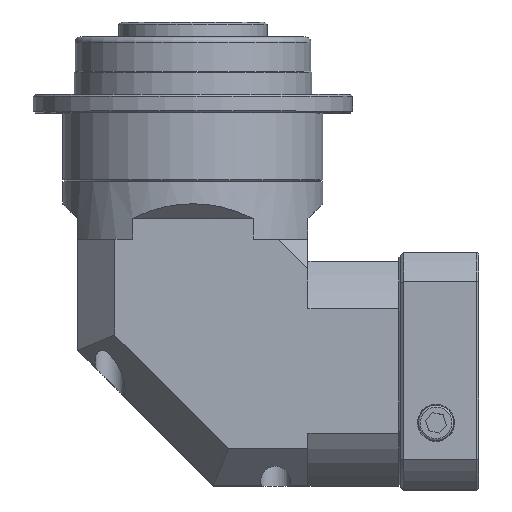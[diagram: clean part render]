
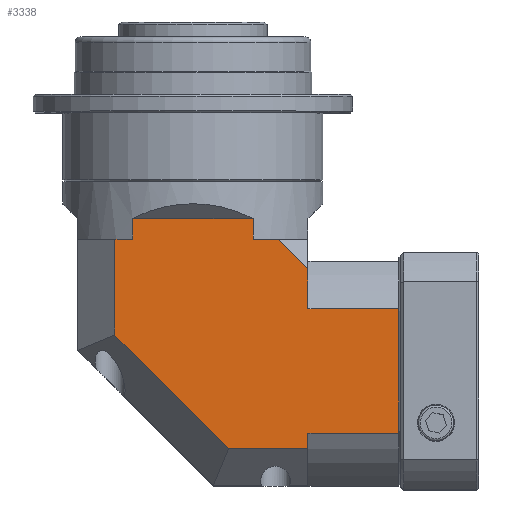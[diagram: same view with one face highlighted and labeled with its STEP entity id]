
A CAD part, top view. The second image highlights one B-rep face of the part: STEP entity #3338.
In plain terms, the highlighted planar face has unit normal (0, 0, 1).
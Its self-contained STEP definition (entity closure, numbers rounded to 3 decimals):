
#1946=CARTESIAN_POINT('',(-16.248,35.5,31.0));
#1947=VERTEX_POINT('',#1946);
#1955=CARTESIAN_POINT('',(-16.248,41.,31.));
#1956=VERTEX_POINT('',#1955);
#1957=CARTESIAN_POINT('',(-16.248,35.5,31.0));
#1958=DIRECTION('',(0.0,1.0,0.0));
#1959=VECTOR('',#1958,5.5);
#1960=LINE('',#1957,#1959);
#1961=EDGE_CURVE('',#1947,#1956,#1960,.T.);
#1963=CARTESIAN_POINT('',(16.248,41.,31.));
#1964=VERTEX_POINT('',#1963);
#1972=CARTESIAN_POINT('',(16.248,35.5,31.));
#1973=VERTEX_POINT('',#1972);
#1974=CARTESIAN_POINT('',(16.248,41.,31.));
#1975=DIRECTION('',(0.0,-1.0,0.0));
#1976=VECTOR('',#1975,5.5);
#1977=LINE('',#1974,#1976);
#1978=EDGE_CURVE('',#1964,#1973,#1977,.T.);
#3186=CARTESIAN_POINT('',(31.,27.5,31.));
#3187=VERTEX_POINT('',#3186);
#3194=CARTESIAN_POINT('',(31.,16.78,31.0));
#3195=VERTEX_POINT('',#3194);
#3196=CARTESIAN_POINT('',(31.,27.5,31.));
#3197=DIRECTION('',(0.0,-1.0,0.0));
#3198=VECTOR('',#3197,10.72);
#3199=LINE('',#3196,#3198);
#3200=EDGE_CURVE('',#3187,#3195,#3199,.T.);
#3234=CARTESIAN_POINT('',(23.,35.5,31.));
#3235=VERTEX_POINT('',#3234);
#3236=CARTESIAN_POINT('',(16.248,35.5,31.));
#3237=DIRECTION('',(1.0,0.0,0.0));
#3238=VECTOR('',#3237,6.752);
#3239=LINE('',#3236,#3238);
#3240=EDGE_CURVE('',#1973,#3235,#3239,.T.);
#3253=CARTESIAN_POINT('',(55.5,-31.,31.));
#3254=DIRECTION('',(0.0,0.0,-1.0));
#3255=DIRECTION('',(-1.0,0.0,0.0));
#3256=AXIS2_PLACEMENT_3D('',#3253,#3254,#3255);
#3257=PLANE('',#3256);
#3258=CARTESIAN_POINT('',(23.,35.5,31.));
#3259=DIRECTION('',(0.707,-0.707,0.));
#3260=VECTOR('',#3259,11.314);
#3261=LINE('',#3258,#3260);
#3262=EDGE_CURVE('',#3235,#3187,#3261,.T.);
#3263=ORIENTED_EDGE('',*,*,#3262,.F.);
#3264=ORIENTED_EDGE('',*,*,#3240,.F.);
#3265=ORIENTED_EDGE('',*,*,#1978,.F.);
#3266=CARTESIAN_POINT('',(-16.248,41.,31.));
#3267=DIRECTION('',(1.0,0.0,0.0));
#3268=VECTOR('',#3267,32.496);
#3269=LINE('',#3266,#3268);
#3270=EDGE_CURVE('',#1956,#1964,#3269,.T.);
#3271=ORIENTED_EDGE('',*,*,#3270,.F.);
#3272=ORIENTED_EDGE('',*,*,#1961,.F.);
#3273=CARTESIAN_POINT('',(-21.,35.5,31.));
#3274=VERTEX_POINT('',#3273);
#3275=CARTESIAN_POINT('',(-21.,35.5,31.));
#3276=DIRECTION('',(1.0,0.0,0.0));
#3277=VECTOR('',#3276,4.752);
#3278=LINE('',#3275,#3277);
#3279=EDGE_CURVE('',#3274,#1947,#3278,.T.);
#3280=ORIENTED_EDGE('',*,*,#3279,.F.);
#3281=CARTESIAN_POINT('',(-21.,9.642,31.0));
#3282=VERTEX_POINT('',#3281);
#3283=CARTESIAN_POINT('',(-21.,35.5,31.0));
#3284=DIRECTION('',(0.0,-1.0,0.0));
#3285=VECTOR('',#3284,25.858);
#3286=LINE('',#3283,#3285);
#3287=EDGE_CURVE('',#3274,#3282,#3286,.T.);
#3288=ORIENTED_EDGE('',*,*,#3287,.T.);
#3289=CARTESIAN_POINT('',(9.642,-21.,31.));
#3290=VERTEX_POINT('',#3289);
#3291=CARTESIAN_POINT('',(-21.,9.642,31.0));
#3292=DIRECTION('',(0.707,-0.707,0.));
#3293=VECTOR('',#3292,43.335);
#3294=LINE('',#3291,#3293);
#3295=EDGE_CURVE('',#3282,#3290,#3294,.T.);
#3296=ORIENTED_EDGE('',*,*,#3295,.T.);
#3297=CARTESIAN_POINT('',(31.,-21.,31.));
#3298=VERTEX_POINT('',#3297);
#3299=CARTESIAN_POINT('',(9.642,-21.,31.));
#3300=DIRECTION('',(1.0,0.0,0.0));
#3301=VECTOR('',#3300,21.358);
#3302=LINE('',#3299,#3301);
#3303=EDGE_CURVE('',#3290,#3298,#3302,.T.);
#3304=ORIENTED_EDGE('',*,*,#3303,.T.);
#3305=CARTESIAN_POINT('',(31.,-16.78,31.0));
#3306=VERTEX_POINT('',#3305);
#3307=CARTESIAN_POINT('',(31.,-16.78,31.));
#3308=DIRECTION('',(0.0,-1.0,0.0));
#3309=VECTOR('',#3308,4.22);
#3310=LINE('',#3307,#3309);
#3311=EDGE_CURVE('',#3306,#3298,#3310,.T.);
#3312=ORIENTED_EDGE('',*,*,#3311,.F.);
#3313=CARTESIAN_POINT('',(55.5,-16.78,31.0));
#3314=VERTEX_POINT('',#3313);
#3315=CARTESIAN_POINT('',(55.5,-16.78,31.0));
#3316=DIRECTION('',(-1.0,0.0,0.0));
#3317=VECTOR('',#3316,24.5);
#3318=LINE('',#3315,#3317);
#3319=EDGE_CURVE('',#3314,#3306,#3318,.T.);
#3320=ORIENTED_EDGE('',*,*,#3319,.F.);
#3321=CARTESIAN_POINT('',(55.5,16.78,31.0));
#3322=VERTEX_POINT('',#3321);
#3323=CARTESIAN_POINT('',(55.5,16.78,31.));
#3324=DIRECTION('',(0.0,-1.0,0.0));
#3325=VECTOR('',#3324,33.56);
#3326=LINE('',#3323,#3325);
#3327=EDGE_CURVE('',#3322,#3314,#3326,.T.);
#3328=ORIENTED_EDGE('',*,*,#3327,.F.);
#3329=CARTESIAN_POINT('',(31.,16.78,31.0));
#3330=DIRECTION('',(1.0,0.0,0.0));
#3331=VECTOR('',#3330,24.5);
#3332=LINE('',#3329,#3331);
#3333=EDGE_CURVE('',#3195,#3322,#3332,.T.);
#3334=ORIENTED_EDGE('',*,*,#3333,.F.);
#3335=ORIENTED_EDGE('',*,*,#3200,.F.);
#3336=EDGE_LOOP('',(#3263,#3264,#3265,#3271,#3272,#3280,#3288,#3296,#3304,#3312,#3320,#3328,#3334,#3335));
#3337=FACE_OUTER_BOUND('',#3336,.T.);
#3338=ADVANCED_FACE('',(#3337),#3257,.F.);
